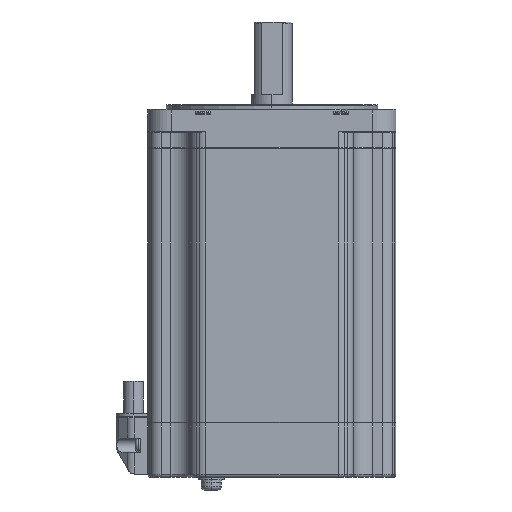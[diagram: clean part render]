
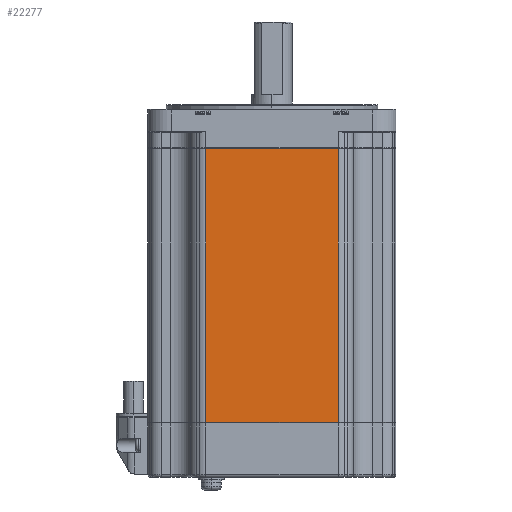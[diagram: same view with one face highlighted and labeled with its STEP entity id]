
A CAD part, left-side view. The second image highlights one B-rep face of the part: STEP entity #22277.
In plain terms, the highlighted planar face has unit normal (-1, 0, 0).
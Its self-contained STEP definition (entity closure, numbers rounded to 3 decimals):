
#1008 = FACE_OUTER_BOUND ( 'NONE', #1673, .T. ) ;
#1673 = EDGE_LOOP ( 'NONE', ( #16762, #16760, #16761, #16759 ) ) ;
#3919 = VECTOR ( 'NONE', #6709, 1000. ) ;
#3921 = VECTOR ( 'NONE', #6718, 1000. ) ;
#3923 = VECTOR ( 'NONE', #6722, 1000. ) ;
#3925 = VECTOR ( 'NONE', #6725, 1000. ) ;
#4615 = LINE ( 'NONE', #6723, #3925 ) ;
#4616 = LINE ( 'NONE', #6720, #3923 ) ;
#4617 = LINE ( 'NONE', #6717, #3921 ) ;
#4618 = LINE ( 'NONE', #6707, #3919 ) ;
#5477 = CARTESIAN_POINT ( 'NONE',  ( -42.75, -22.879, -108. ) ) ;
#5479 = CARTESIAN_POINT ( 'NONE',  ( -42.75, -22.879, -13.7 ) ) ;
#5481 = CARTESIAN_POINT ( 'NONE',  ( -42.75, 22.879, -108. ) ) ;
#5482 = CARTESIAN_POINT ( 'NONE',  ( -42.75, 22.879, -13.7 ) ) ;
#6707 = CARTESIAN_POINT ( 'NONE',  ( -42.75, -22.879, -108.2 ) ) ;
#6709 = DIRECTION ( 'NONE',  ( 0., 0., 1. ) ) ;
#6717 = CARTESIAN_POINT ( 'NONE',  ( -42.75, 22.879, -108. ) ) ;
#6718 = DIRECTION ( 'NONE',  ( 0., -1., 0. ) ) ;
#6720 = CARTESIAN_POINT ( 'NONE',  ( -42.75, 22.879, -108.2 ) ) ;
#6722 = DIRECTION ( 'NONE',  ( 0., 0., 1. ) ) ;
#6723 = CARTESIAN_POINT ( 'NONE',  ( -42.75, 22.879, -13.7 ) ) ;
#6725 = DIRECTION ( 'NONE',  ( 0., 1., 0. ) ) ;
#8811 = AXIS2_PLACEMENT_3D ( 'NONE', #18480, #18481, #18482 ) ;
#15106 = VERTEX_POINT ( 'NONE', #5477 ) ;
#15110 = VERTEX_POINT ( 'NONE', #5479 ) ;
#15113 = VERTEX_POINT ( 'NONE', #5481 ) ;
#15115 = VERTEX_POINT ( 'NONE', #5482 ) ;
#16759 = ORIENTED_EDGE ( 'NONE', *, *, #20343, .T. ) ;
#16760 = ORIENTED_EDGE ( 'NONE', *, *, #20341, .T. ) ;
#16761 = ORIENTED_EDGE ( 'NONE', *, *, #20339, .T. ) ;
#16762 = ORIENTED_EDGE ( 'NONE', *, *, #20342, .F. ) ;
#18479 = PLANE ( 'NONE',  #8811 ) ;
#18480 = CARTESIAN_POINT ( 'NONE',  ( -42.75, 22.879, -108.2 ) ) ;
#18481 = DIRECTION ( 'NONE',  ( 1., 0., 0. ) ) ;
#18482 = DIRECTION ( 'NONE',  ( 0., 0., -1. ) ) ;
#20339 = EDGE_CURVE ( 'NONE', #15106, #15110, #4618, .T. ) ;
#20341 = EDGE_CURVE ( 'NONE', #15113, #15106, #4617, .T. ) ;
#20342 = EDGE_CURVE ( 'NONE', #15113, #15115, #4616, .T. ) ;
#20343 = EDGE_CURVE ( 'NONE', #15110, #15115, #4615, .T. ) ;
#22277 = ADVANCED_FACE ( 'NONE', ( #1008 ), #18479, .F. ) ;
